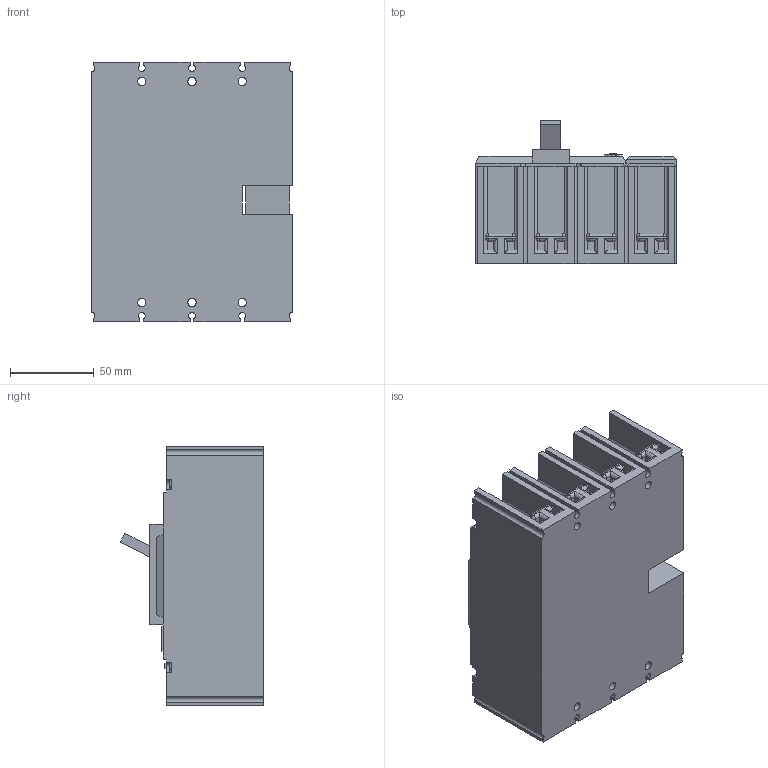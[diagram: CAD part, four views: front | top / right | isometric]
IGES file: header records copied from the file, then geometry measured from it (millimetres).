
Start section:  PTC IGES file: 20-metasol-mccb-125af-4p.igs
Global section: file name: 20-metasol-mccb-125af-4p.igs; native system: Pro/ENGINEER by Parametric Technology Corporation; preprocessor: 2010280; author: mgkimb; organization: Unknown; date: 20131029.143309; units: millimetre
Bounding box: 120 x 85.7 x 155 mm (x, y, z)
Surface area: 111020.3 mm2 (no closed solid volume)
Topology: 0 solids, 0 shells, 1092 faces, 5572 edges, 5572 vertices
Faces by surface type: bspline 691, revolution 401
